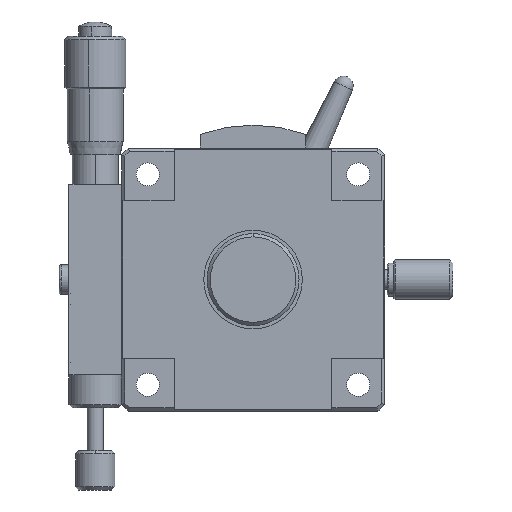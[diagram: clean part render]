
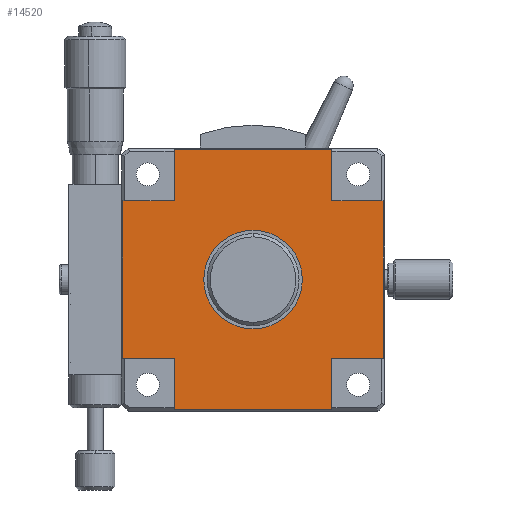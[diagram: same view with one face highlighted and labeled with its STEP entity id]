
A CAD part, front view. The second image highlights one B-rep face of the part: STEP entity #14520.
In plain terms, the highlighted planar face has unit normal (0, -1, 0).
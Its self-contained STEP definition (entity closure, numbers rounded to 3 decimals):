
#14 = VECTOR ( 'NONE', #22751, 1000. ) ;
#1102 = CARTESIAN_POINT ( 'NONE',  ( -32., -0.703, 28.511 ) ) ;
#1167 = AXIS2_PLACEMENT_3D ( 'NONE', #6483, #12307, #23498 ) ;
#1626 = CARTESIAN_POINT ( 'NONE',  ( -8., -0.703, 60.311 ) ) ;
#1936 = DIRECTION ( 'NONE',  ( 1., 0., 0. ) ) ;
#2110 = EDGE_CURVE ( 'NONE', #7488, #23622, #31488, .T. ) ;
#3004 = VERTEX_POINT ( 'NONE', #8231 ) ;
#3007 = LINE ( 'NONE', #17513, #14 ) ;
#3453 = DIRECTION ( 'NONE',  ( -1., 0., 0. ) ) ;
#3556 = LINE ( 'NONE', #17973, #21353 ) ;
#4249 = CARTESIAN_POINT ( 'NONE',  ( -0.2, -0.703, 28.511 ) ) ;
#4617 = CARTESIAN_POINT ( 'NONE',  ( -8., -0.703, 28.511 ) ) ;
#4620 = EDGE_CURVE ( 'NONE', #27740, #9601, #31275, .T. ) ;
#4697 = VERTEX_POINT ( 'NONE', #4617 ) ;
#5080 = ORIENTED_EDGE ( 'NONE', *, *, #5250, .T. ) ;
#5250 = EDGE_CURVE ( 'NONE', #23771, #7488, #27327, .T. ) ;
#5653 = LINE ( 'NONE', #25432, #23051 ) ;
#6269 = EDGE_CURVE ( 'NONE', #16798, #29404, #32566, .T. ) ;
#6296 = VECTOR ( 'NONE', #1936, 1000. ) ;
#6483 = CARTESIAN_POINT ( 'NONE',  ( -32., -0.703, 28.511 ) ) ;
#6585 = CARTESIAN_POINT ( 'NONE',  ( -39.8, -0.703, 52.511 ) ) ;
#6944 = VECTOR ( 'NONE', #12042, 1000. ) ;
#7081 = LINE ( 'NONE', #34969, #30999 ) ;
#7488 = VERTEX_POINT ( 'NONE', #14669 ) ;
#7751 = CARTESIAN_POINT ( 'NONE',  ( -20., -0.703, 40.511 ) ) ;
#7783 = CARTESIAN_POINT ( 'NONE',  ( -8., -0.703, 28.511 ) ) ;
#8231 = CARTESIAN_POINT ( 'NONE',  ( -0.2, -0.703, 52.511 ) ) ;
#9601 = VERTEX_POINT ( 'NONE', #24240 ) ;
#10400 = ORIENTED_EDGE ( 'NONE', *, *, #32121, .T. ) ;
#10448 = FACE_OUTER_BOUND ( 'NONE', #29097, .T. ) ;
#12042 = DIRECTION ( 'NONE',  ( -1., 0., 0. ) ) ;
#12307 = DIRECTION ( 'NONE',  ( 0., -1., 0. ) ) ;
#13338 = CARTESIAN_POINT ( 'NONE',  ( -8., -0.703, 52.511 ) ) ;
#13368 = DIRECTION ( 'NONE',  ( 0., 0., 1. ) ) ;
#13715 = EDGE_CURVE ( 'NONE', #17103, #23771, #3556, .T. ) ;
#14189 = CARTESIAN_POINT ( 'NONE',  ( -20., -0.703, 40.511 ) ) ;
#14315 = DIRECTION ( 'NONE',  ( 0., 1., 0. ) ) ;
#14520 = ADVANCED_FACE ( 'NONE', ( #35217, #10448 ), #20694, .T. ) ;
#14661 = LINE ( 'NONE', #4249, #35941 ) ;
#14669 = CARTESIAN_POINT ( 'NONE',  ( -32., -0.703, 20.711 ) ) ;
#15069 = EDGE_LOOP ( 'NONE', ( #20695, #26731 ) ) ;
#15379 = ORIENTED_EDGE ( 'NONE', *, *, #25185, .T. ) ;
#15433 = DIRECTION ( 'NONE',  ( 0., 0., 1. ) ) ;
#15970 = VERTEX_POINT ( 'NONE', #13338 ) ;
#16258 = DIRECTION ( 'NONE',  ( 0., 0., 1. ) ) ;
#16608 = VECTOR ( 'NONE', #3453, 1000. ) ;
#16798 = VERTEX_POINT ( 'NONE', #17141 ) ;
#16998 = ORIENTED_EDGE ( 'NONE', *, *, #28569, .T. ) ;
#17103 = VERTEX_POINT ( 'NONE', #30469 ) ;
#17141 = CARTESIAN_POINT ( 'NONE',  ( -20., -0.703, 33.011 ) ) ;
#17513 = CARTESIAN_POINT ( 'NONE',  ( -32., -0.703, 28.511 ) ) ;
#17540 = CARTESIAN_POINT ( 'NONE',  ( -20., -0.703, 48.011 ) ) ;
#17973 = CARTESIAN_POINT ( 'NONE',  ( -32., -0.703, 28.511 ) ) ;
#18114 = ORIENTED_EDGE ( 'NONE', *, *, #24912, .T. ) ;
#18370 = LINE ( 'NONE', #7783, #27047 ) ;
#18557 = CARTESIAN_POINT ( 'NONE',  ( -32., -0.703, 20.711 ) ) ;
#18558 = ORIENTED_EDGE ( 'NONE', *, *, #32309, .T. ) ;
#18890 = LINE ( 'NONE', #33895, #21972 ) ;
#18932 = CARTESIAN_POINT ( 'NONE',  ( -8., -0.703, 20.711 ) ) ;
#19943 = DIRECTION ( 'NONE',  ( 0., 0., -1. ) ) ;
#20694 = PLANE ( 'NONE',  #1167 ) ;
#20695 = ORIENTED_EDGE ( 'NONE', *, *, #26525, .T. ) ;
#20754 = ORIENTED_EDGE ( 'NONE', *, *, #31414, .T. ) ;
#20775 = VERTEX_POINT ( 'NONE', #35105 ) ;
#20804 = CARTESIAN_POINT ( 'NONE',  ( -32., -0.703, 52.511 ) ) ;
#21237 = DIRECTION ( 'NONE',  ( 0., 0., 1. ) ) ;
#21353 = VECTOR ( 'NONE', #34483, 1000. ) ;
#21962 = ORIENTED_EDGE ( 'NONE', *, *, #25018, .T. ) ;
#21972 = VECTOR ( 'NONE', #19943, 1000. ) ;
#22646 = CARTESIAN_POINT ( 'NONE',  ( -32., -0.703, 28.511 ) ) ;
#22697 = DIRECTION ( 'NONE',  ( 0., 0., 1. ) ) ;
#22751 = DIRECTION ( 'NONE',  ( 1., 0., 0. ) ) ;
#23051 = VECTOR ( 'NONE', #28099, 1000. ) ;
#23393 = ORIENTED_EDGE ( 'NONE', *, *, #13715, .T. ) ;
#23498 = DIRECTION ( 'NONE',  ( 0., 0., -1. ) ) ;
#23622 = VERTEX_POINT ( 'NONE', #18932 ) ;
#23730 = DIRECTION ( 'NONE',  ( -1., 0., 0. ) ) ;
#23771 = VERTEX_POINT ( 'NONE', #1102 ) ;
#23838 = CIRCLE ( 'NONE', #33200, 7.5 ) ;
#24005 = ORIENTED_EDGE ( 'NONE', *, *, #2110, .T. ) ;
#24069 = VERTEX_POINT ( 'NONE', #28182 ) ;
#24240 = CARTESIAN_POINT ( 'NONE',  ( -32., -0.703, 60.311 ) ) ;
#24880 = LINE ( 'NONE', #28583, #16608 ) ;
#24912 = EDGE_CURVE ( 'NONE', #9601, #20775, #5653, .T. ) ;
#25018 = EDGE_CURVE ( 'NONE', #4697, #24069, #3007, .T. ) ;
#25185 = EDGE_CURVE ( 'NONE', #20775, #27577, #26051, .T. ) ;
#25432 = CARTESIAN_POINT ( 'NONE',  ( -32., -0.703, 28.511 ) ) ;
#26051 = LINE ( 'NONE', #20804, #26912 ) ;
#26130 = CARTESIAN_POINT ( 'NONE',  ( -32., -0.703, 60.311 ) ) ;
#26440 = AXIS2_PLACEMENT_3D ( 'NONE', #14189, #14315, #22697 ) ;
#26525 = EDGE_CURVE ( 'NONE', #29404, #16798, #23838, .T. ) ;
#26731 = ORIENTED_EDGE ( 'NONE', *, *, #6269, .T. ) ;
#26912 = VECTOR ( 'NONE', #23730, 1000. ) ;
#27047 = VECTOR ( 'NONE', #13368, 1000. ) ;
#27327 = LINE ( 'NONE', #22646, #33426 ) ;
#27577 = VERTEX_POINT ( 'NONE', #6585 ) ;
#27740 = VERTEX_POINT ( 'NONE', #1626 ) ;
#28099 = DIRECTION ( 'NONE',  ( 0., 0., -1. ) ) ;
#28182 = CARTESIAN_POINT ( 'NONE',  ( -0.2, -0.703, 28.511 ) ) ;
#28569 = EDGE_CURVE ( 'NONE', #24069, #3004, #14661, .T. ) ;
#28583 = CARTESIAN_POINT ( 'NONE',  ( -32., -0.703, 52.511 ) ) ;
#29097 = EDGE_LOOP ( 'NONE', ( #23393, #5080, #24005, #20754, #21962, #16998, #10400, #18558, #29661, #18114, #15379, #34549 ) ) ;
#29404 = VERTEX_POINT ( 'NONE', #17540 ) ;
#29661 = ORIENTED_EDGE ( 'NONE', *, *, #4620, .T. ) ;
#29668 = EDGE_CURVE ( 'NONE', #27577, #17103, #18890, .T. ) ;
#29746 = DIRECTION ( 'NONE',  ( 0., 1., 0. ) ) ;
#30469 = CARTESIAN_POINT ( 'NONE',  ( -39.8, -0.703, 28.511 ) ) ;
#30777 = DIRECTION ( 'NONE',  ( 0., 0., -1. ) ) ;
#30999 = VECTOR ( 'NONE', #21237, 1000. ) ;
#31275 = LINE ( 'NONE', #26130, #6944 ) ;
#31414 = EDGE_CURVE ( 'NONE', #23622, #4697, #7081, .T. ) ;
#31488 = LINE ( 'NONE', #18557, #6296 ) ;
#32121 = EDGE_CURVE ( 'NONE', #3004, #15970, #24880, .T. ) ;
#32309 = EDGE_CURVE ( 'NONE', #15970, #27740, #18370, .T. ) ;
#32566 = CIRCLE ( 'NONE', #26440, 7.5 ) ;
#33200 = AXIS2_PLACEMENT_3D ( 'NONE', #7751, #29746, #16258 ) ;
#33426 = VECTOR ( 'NONE', #30777, 1000. ) ;
#33895 = CARTESIAN_POINT ( 'NONE',  ( -39.8, -0.703, 28.511 ) ) ;
#34483 = DIRECTION ( 'NONE',  ( 1., 0., 0. ) ) ;
#34549 = ORIENTED_EDGE ( 'NONE', *, *, #29668, .T. ) ;
#34969 = CARTESIAN_POINT ( 'NONE',  ( -8., -0.703, 28.511 ) ) ;
#35105 = CARTESIAN_POINT ( 'NONE',  ( -32., -0.703, 52.511 ) ) ;
#35217 = FACE_BOUND ( 'NONE', #15069, .T. ) ;
#35941 = VECTOR ( 'NONE', #15433, 1000. ) ;
